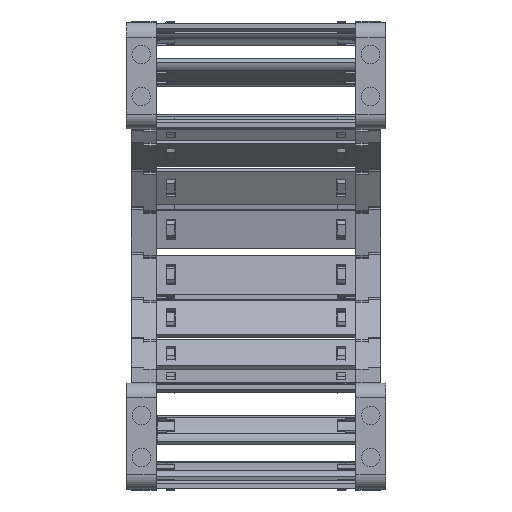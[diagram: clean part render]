
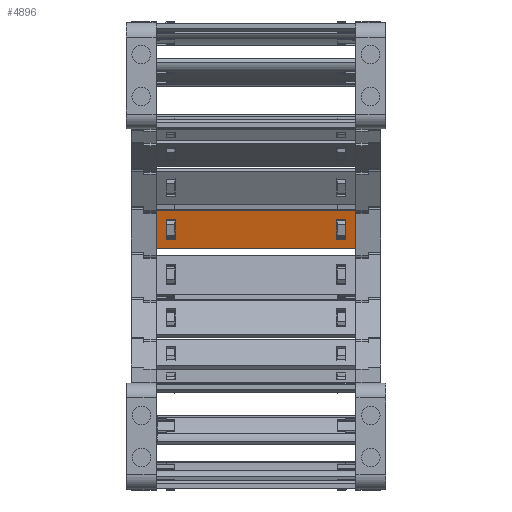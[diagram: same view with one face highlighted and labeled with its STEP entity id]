
A CAD part, left-side view. The second image highlights one B-rep face of the part: STEP entity #4896.
In plain terms, the highlighted planar face has unit normal (-0.976, 0, -0.216) as drawn and (0, 1, 0) by its records, which use the part's own axes.
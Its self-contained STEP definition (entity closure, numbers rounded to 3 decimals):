
#4022=DIRECTION('',(0.,0.,1.));
#4023=VECTOR('',#4022,15.8);
#4024=CARTESIAN_POINT('',(65.74,1.5,-7.9));
#4025=LINE('',#4024,#4023);
#4029=DIRECTION('',(-1.,0.,0.));
#4030=VECTOR('',#4029,80.5);
#4031=CARTESIAN_POINT('',(65.74,1.5,7.9));
#4032=LINE('',#4031,#4030);
#4036=DIRECTION('',(0.,0.,-1.));
#4037=VECTOR('',#4036,15.8);
#4038=CARTESIAN_POINT('',(-14.76,1.5,7.9));
#4039=LINE('',#4038,#4037);
#4043=DIRECTION('',(1.,0.,0.));
#4044=VECTOR('',#4043,3.648);
#4045=CARTESIAN_POINT('',(58.122,1.5,4.075));
#4046=LINE('',#4045,#4044);
#4050=DIRECTION('',(0.,0.,-1.));
#4051=VECTOR('',#4050,8.15);
#4052=CARTESIAN_POINT('',(61.77,1.5,4.075));
#4053=LINE('',#4052,#4051);
#4057=DIRECTION('',(-1.,0.,0.));
#4058=VECTOR('',#4057,3.648);
#4059=CARTESIAN_POINT('',(61.77,1.5,-4.075));
#4060=LINE('',#4059,#4058);
#4064=DIRECTION('',(0.,0.,-1.));
#4065=VECTOR('',#4064,8.15);
#4066=CARTESIAN_POINT('',(-7.142,1.5,4.075));
#4067=LINE('',#4066,#4065);
#4071=DIRECTION('',(-1.,0.,0.));
#4072=VECTOR('',#4071,3.648);
#4073=CARTESIAN_POINT('',(-7.142,1.5,-4.075));
#4074=LINE('',#4073,#4072);
#4078=DIRECTION('',(0.,0.,1.));
#4079=VECTOR('',#4078,8.15);
#4080=CARTESIAN_POINT('',(-10.79,1.5,-4.075));
#4081=LINE('',#4080,#4079);
#4085=DIRECTION('',(1.,0.,0.));
#4086=VECTOR('',#4085,3.648);
#4087=CARTESIAN_POINT('',(-10.79,1.5,4.075));
#4088=LINE('',#4087,#4086);
#4099=DIRECTION('',(-1.,0.,0.));
#4100=VECTOR('',#4099,80.5);
#4101=CARTESIAN_POINT('',(65.74,1.5,-7.9));
#4102=LINE('',#4101,#4100);
#4307=DIRECTION('',(0.,0.,-1.));
#4308=VECTOR('',#4307,8.15);
#4309=CARTESIAN_POINT('',(58.122,1.5,4.075));
#4310=LINE('',#4309,#4308);
#4606=CARTESIAN_POINT('',(61.77,1.5,4.075));
#4607=VERTEX_POINT('',#4606);
#4608=CARTESIAN_POINT('',(58.122,1.5,4.075));
#4609=VERTEX_POINT('',#4608);
#4650=CARTESIAN_POINT('',(58.122,1.5,-4.075));
#4651=VERTEX_POINT('',#4650);
#4652=CARTESIAN_POINT('',(61.77,1.5,-4.075));
#4653=VERTEX_POINT('',#4652);
#4654=CARTESIAN_POINT('',(65.74,1.5,7.9));
#4656=VERTEX_POINT('',#4654);
#4658=CARTESIAN_POINT('',(65.74,1.5,-7.9));
#4659=VERTEX_POINT('',#4658);
#4682=CARTESIAN_POINT('',(-7.142,1.5,4.075));
#4683=CARTESIAN_POINT('',(-7.142,1.5,-4.075));
#4684=VERTEX_POINT('',#4682);
#4685=VERTEX_POINT('',#4683);
#4686=CARTESIAN_POINT('',(-10.79,1.5,-4.075));
#4687=VERTEX_POINT('',#4686);
#4688=CARTESIAN_POINT('',(-10.79,1.5,4.075));
#4689=VERTEX_POINT('',#4688);
#4690=CARTESIAN_POINT('',(-14.76,1.5,7.9));
#4691=VERTEX_POINT('',#4690);
#4694=CARTESIAN_POINT('',(-14.76,1.5,-7.9));
#4695=VERTEX_POINT('',#4694);
#4865=CARTESIAN_POINT('',(97.48,1.5,10.061));
#4866=DIRECTION('',(0.,-1.,0.));
#4867=DIRECTION('',(0.,0.,-1.));
#4868=AXIS2_PLACEMENT_3D('',#4865,#4866,#4867);
#4869=PLANE('',#4868);
#4870=ORIENTED_EDGE('',*,*,#4768,.T.);
#4871=ORIENTED_EDGE('',*,*,#4806,.T.);
#4872=ORIENTED_EDGE('',*,*,#4831,.T.);
#4874=ORIENTED_EDGE('',*,*,#4873,.F.);
#4875=EDGE_LOOP('',(#4870,#4871,#4872,#4874));
#4876=FACE_OUTER_BOUND('',#4875,.F.);
#4878=ORIENTED_EDGE('',*,*,#4877,.F.);
#4879=ORIENTED_EDGE('',*,*,#4707,.T.);
#4881=ORIENTED_EDGE('',*,*,#4880,.T.);
#4883=ORIENTED_EDGE('',*,*,#4882,.T.);
#4884=EDGE_LOOP('',(#4878,#4879,#4881,#4883));
#4885=FACE_BOUND('',#4884,.F.);
#4887=ORIENTED_EDGE('',*,*,#4886,.T.);
#4889=ORIENTED_EDGE('',*,*,#4888,.T.);
#4891=ORIENTED_EDGE('',*,*,#4890,.T.);
#4893=ORIENTED_EDGE('',*,*,#4892,.T.);
#4894=EDGE_LOOP('',(#4887,#4889,#4891,#4893));
#4895=FACE_BOUND('',#4894,.F.);
#4896=ADVANCED_FACE('',(#4876,#4885,#4895),#4869,.F.);
#4707=EDGE_CURVE('',#4609,#4607,#4046,.T.);
#4768=EDGE_CURVE('',#4659,#4656,#4025,.T.);
#4806=EDGE_CURVE('',#4656,#4691,#4032,.T.);
#4831=EDGE_CURVE('',#4691,#4695,#4039,.T.);
#4873=EDGE_CURVE('',#4659,#4695,#4102,.T.);
#4877=EDGE_CURVE('',#4609,#4651,#4310,.T.);
#4880=EDGE_CURVE('',#4607,#4653,#4053,.T.);
#4882=EDGE_CURVE('',#4653,#4651,#4060,.T.);
#4886=EDGE_CURVE('',#4684,#4685,#4067,.T.);
#4888=EDGE_CURVE('',#4685,#4687,#4074,.T.);
#4890=EDGE_CURVE('',#4687,#4689,#4081,.T.);
#4892=EDGE_CURVE('',#4689,#4684,#4088,.T.);
